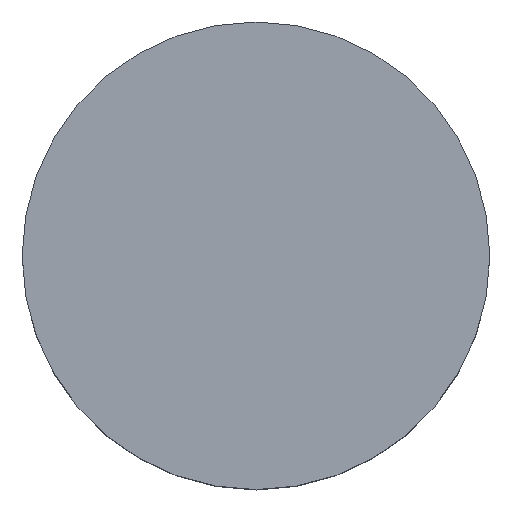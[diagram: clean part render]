
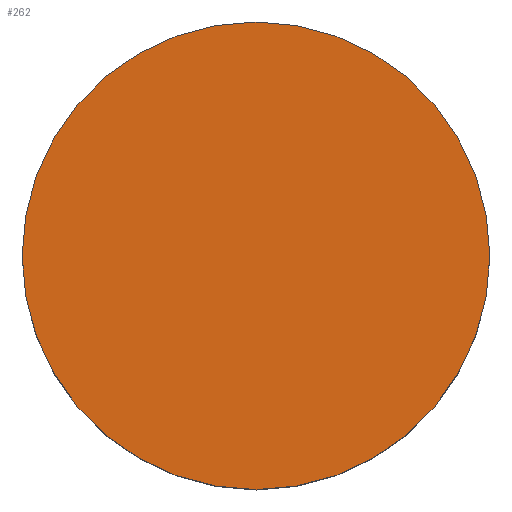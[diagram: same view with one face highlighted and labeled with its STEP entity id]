
A CAD part, top view. The second image highlights one B-rep face of the part: STEP entity #262.
In plain terms, the highlighted planar face has unit normal (0, 0, 1).
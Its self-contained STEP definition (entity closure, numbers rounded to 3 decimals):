
#32=PLANE('',#313);
#69=FACE_OUTER_BOUND('',#100,.T.);
#100=EDGE_LOOP('',(#218));
#130=CIRCLE('',#312,26.);
#153=VERTEX_POINT('',#476);
#178=EDGE_CURVE('',#153,#153,#130,.T.);
#218=ORIENTED_EDGE('',*,*,#178,.T.);
#262=ADVANCED_FACE('',(#69),#32,.T.);
#312=AXIS2_PLACEMENT_3D('',#477,#401,#402);
#313=AXIS2_PLACEMENT_3D('',#478,#403,#404);
#401=DIRECTION('center_axis',(0.,0.,1.));
#402=DIRECTION('ref_axis',(-1.,0.,0.));
#403=DIRECTION('center_axis',(0.,0.,1.));
#404=DIRECTION('ref_axis',(1.,0.,0.));
#476=CARTESIAN_POINT('',(26.,0.,28.));
#477=CARTESIAN_POINT('Origin',(0.,0.,28.));
#478=CARTESIAN_POINT('Origin',(0.,0.,28.));
